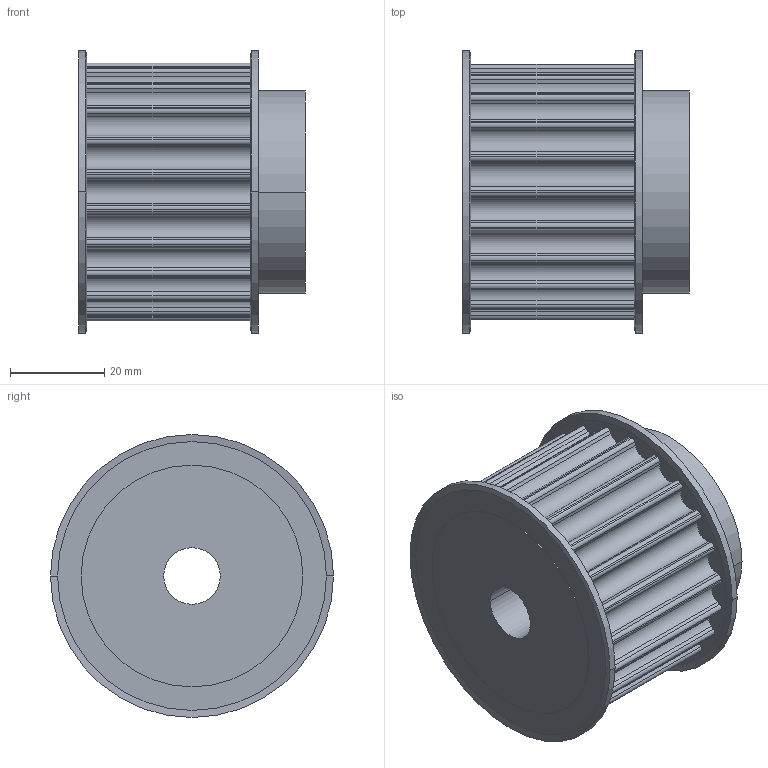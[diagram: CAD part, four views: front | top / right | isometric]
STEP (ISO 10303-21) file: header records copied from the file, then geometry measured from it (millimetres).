
FILE_DESCRIPTION( ( '' ), '1' );
FILE_NAME( 'C:/Users/Stangenbergd/Documents/CAD_Step/1/17421100.stp', '2021-10-19T10:10:16', ( '' ), ( '' ), ' ', ' ', ' ' );
FILE_SCHEMA( ( 'CONFIG_CONTROL_DESIGN' ) );
Length unit declared in the file: millimetre
Products named in the file (1): 1
Bounding box: 48.06 x 60 x 60 mm (x, y, z)
Volume: 88136 mm3; surface area: 19054 mm2
Topology: 1 solids, 1 shells, 159 faces, 448 edges, 296 vertices
Faces by surface type: cylinder 100, plane 51, cone 8
Entity records: 5274 total; most frequent: DIRECTION 976, CARTESIAN_POINT 904, ORIENTED_EDGE 896, EDGE_CURVE 448, AXIS2_PLACEMENT_3D 368, VERTEX_POINT 296, LINE 240, VECTOR 240
